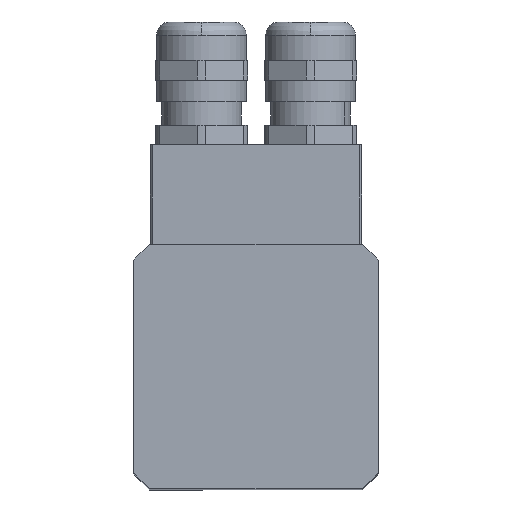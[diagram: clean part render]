
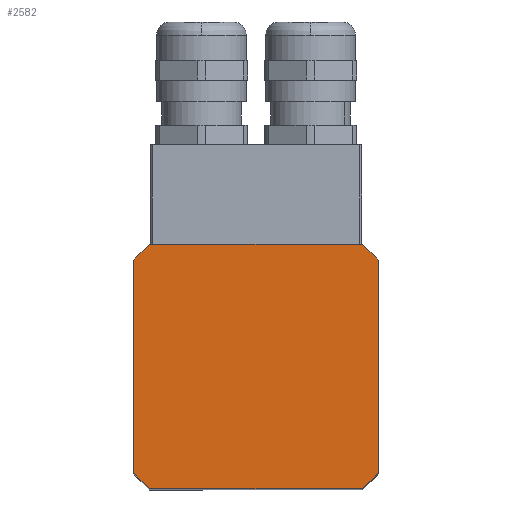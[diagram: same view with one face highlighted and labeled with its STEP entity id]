
A CAD part, top view. The second image highlights one B-rep face of the part: STEP entity #2582.
In plain terms, the highlighted planar face has unit normal (0, 0, 1).
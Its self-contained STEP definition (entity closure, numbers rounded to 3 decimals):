
#2246=CARTESIAN_POINT('',(-18.5,16.062,111.0));
#2247=VERTEX_POINT('',#2246);
#2256=CARTESIAN_POINT('',(-16.062,18.5,111.0));
#2257=VERTEX_POINT('',#2256);
#2258=CARTESIAN_POINT('',(0.0,0.0,111.0));
#2259=DIRECTION('',(0.0,0.0,1.0));
#2260=DIRECTION('',(-1.0,0.0,0.0));
#2261=AXIS2_PLACEMENT_3D('',#2258,#2259,#2260);
#2262=CIRCLE('',#2261,24.5);
#2263=EDGE_CURVE('',#2257,#2247,#2262,.T.);
#2290=CARTESIAN_POINT('',(18.5,16.062,111.0));
#2291=VERTEX_POINT('',#2290);
#2307=CARTESIAN_POINT('',(16.062,18.5,111.0));
#2308=VERTEX_POINT('',#2307);
#2315=CARTESIAN_POINT('',(0.0,0.0,111.0));
#2316=DIRECTION('',(0.0,0.0,1.0));
#2317=DIRECTION('',(-1.0,0.0,0.0));
#2318=AXIS2_PLACEMENT_3D('',#2315,#2316,#2317);
#2319=CIRCLE('',#2318,24.5);
#2320=EDGE_CURVE('',#2291,#2308,#2319,.T.);
#2330=CARTESIAN_POINT('',(-16.062,-18.5,111.0));
#2331=VERTEX_POINT('',#2330);
#2340=CARTESIAN_POINT('',(-18.5,-16.062,111.0));
#2341=VERTEX_POINT('',#2340);
#2342=CARTESIAN_POINT('',(0.0,0.0,111.0));
#2343=DIRECTION('',(0.0,0.0,1.0));
#2344=DIRECTION('',(-1.0,0.0,0.0));
#2345=AXIS2_PLACEMENT_3D('',#2342,#2343,#2344);
#2346=CIRCLE('',#2345,24.5);
#2347=EDGE_CURVE('',#2341,#2331,#2346,.T.);
#2372=CARTESIAN_POINT('',(18.5,-16.062,111.0));
#2373=VERTEX_POINT('',#2372);
#2382=CARTESIAN_POINT('',(16.062,-18.5,111.0));
#2383=VERTEX_POINT('',#2382);
#2384=CARTESIAN_POINT('',(0.0,0.0,111.0));
#2385=DIRECTION('',(0.0,0.0,1.0));
#2386=DIRECTION('',(-1.0,0.0,0.0));
#2387=AXIS2_PLACEMENT_3D('',#2384,#2385,#2386);
#2388=CIRCLE('',#2387,24.5);
#2389=EDGE_CURVE('',#2383,#2373,#2388,.T.);
#2422=CARTESIAN_POINT('',(-18.5,-16.062,111.0));
#2423=DIRECTION('',(0.0,1.0,0.0));
#2424=VECTOR('',#2423,32.125);
#2425=LINE('',#2422,#2424);
#2426=EDGE_CURVE('',#2341,#2247,#2425,.T.);
#2456=CARTESIAN_POINT('',(16.062,-18.5,111.0));
#2457=DIRECTION('',(-1.0,0.0,0.0));
#2458=VECTOR('',#2457,32.125);
#2459=LINE('',#2456,#2458);
#2460=EDGE_CURVE('',#2383,#2331,#2459,.T.);
#2517=CARTESIAN_POINT('',(18.5,16.062,111.0));
#2518=DIRECTION('',(0.0,-1.0,0.0));
#2519=VECTOR('',#2518,32.125);
#2520=LINE('',#2517,#2519);
#2521=EDGE_CURVE('',#2291,#2373,#2520,.T.);
#2546=CARTESIAN_POINT('',(-16.062,18.5,111.0));
#2547=DIRECTION('',(1.0,0.0,0.0));
#2548=VECTOR('',#2547,32.125);
#2549=LINE('',#2546,#2548);
#2550=EDGE_CURVE('',#2257,#2308,#2549,.T.);
#2567=CARTESIAN_POINT('',(-20.35,-20.35,111.0));
#2568=DIRECTION('',(0.0,0.0,1.0));
#2569=DIRECTION('',(1.0,0.0,0.0));
#2570=AXIS2_PLACEMENT_3D('',#2567,#2568,#2569);
#2571=PLANE('',#2570);
#2572=ORIENTED_EDGE('',*,*,#2263,.T.);
#2573=ORIENTED_EDGE('',*,*,#2426,.F.);
#2574=ORIENTED_EDGE('',*,*,#2347,.T.);
#2575=ORIENTED_EDGE('',*,*,#2460,.F.);
#2576=ORIENTED_EDGE('',*,*,#2389,.T.);
#2577=ORIENTED_EDGE('',*,*,#2521,.F.);
#2578=ORIENTED_EDGE('',*,*,#2320,.T.);
#2579=ORIENTED_EDGE('',*,*,#2550,.F.);
#2580=EDGE_LOOP('',(#2572,#2573,#2574,#2575,#2576,#2577,#2578,#2579));
#2581=FACE_OUTER_BOUND('',#2580,.T.);
#2582=ADVANCED_FACE('',(#2581),#2571,.T.);
